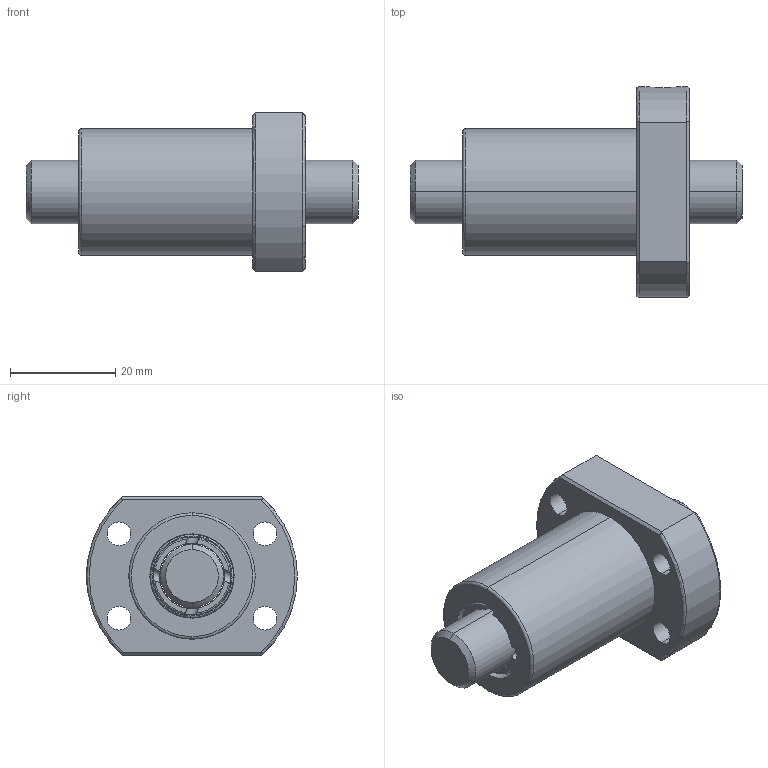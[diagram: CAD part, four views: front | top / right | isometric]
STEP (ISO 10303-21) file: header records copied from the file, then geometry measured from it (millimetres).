
FILE_DESCRIPTION (( 'STEP AP203' ), '1' );
FILE_NAME ('SFBR01204T4D.STEP', '2020-06-17T08:57:14', ( '' ), ( '' ), 'SwSTEP 2.0', 'SolidWorks 2013', '' );
FILE_SCHEMA (( 'CONFIG_CONTROL_DESIGN' ));
Length unit declared in the file: millimetre
Products named in the file (1): SFBR01204T4D
Bounding box: 63 x 40 x 30 mm (x, y, z)
Volume: 26261 mm3; surface area: 11258.9 mm2
Topology: 2 solids, 2 shells, 106 faces, 264 edges, 166 vertices
Faces by surface type: cylinder 50, torus 26, plane 26, cone 4
Entity records: 3835 total; most frequent: CARTESIAN_POINT 1223, DIRECTION 542, ORIENTED_EDGE 528, EDGE_CURVE 264, AXIS2_PLACEMENT_3D 237, VERTEX_POINT 166, CIRCLE 130, EDGE_LOOP 124
